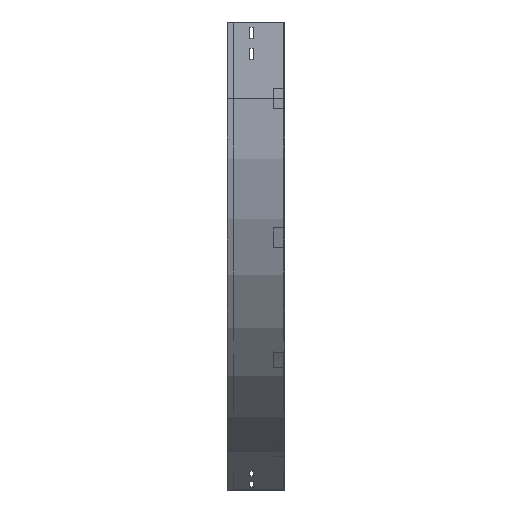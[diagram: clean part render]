
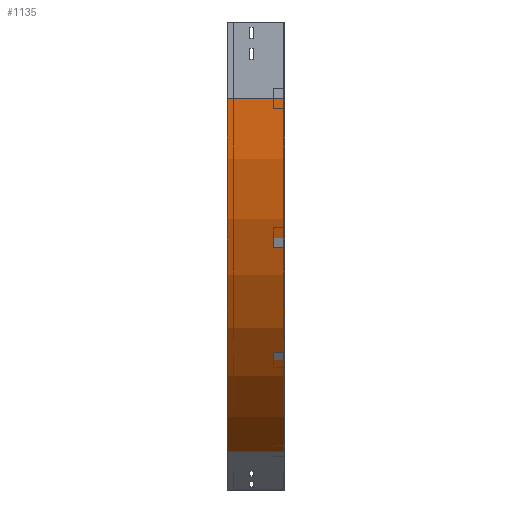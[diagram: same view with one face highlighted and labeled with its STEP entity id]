
A CAD part, left-side view. The second image highlights one B-rep face of the part: STEP entity #1135.
In plain terms, the highlighted cylindrical face has radius 800 mm (diameter 1600 mm), a partial arc.
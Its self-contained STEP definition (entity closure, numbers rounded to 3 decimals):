
#94 = CARTESIAN_POINT ( 'NONE',  ( 400., 0., -842.82 ) ) ;
#166 = AXIS2_PLACEMENT_3D ( 'NONE', #1193, #3842, #534 ) ;
#252 = DIRECTION ( 'NONE',  ( -1., 0., 0. ) ) ;
#486 = CIRCLE ( 'NONE', #2652, 800. ) ;
#501 = CARTESIAN_POINT ( 'NONE',  ( 800., 0., -150. ) ) ;
#534 = DIRECTION ( 'NONE',  ( -1., 0., 0. ) ) ;
#699 = LINE ( 'NONE', #94, #1668 ) ;
#763 = ORIENTED_EDGE ( 'NONE', *, *, #1356, .T. ) ;
#765 = FACE_OUTER_BOUND ( 'NONE', #2291, .T. ) ;
#856 = VERTEX_POINT ( 'NONE', #2967 ) ;
#1016 = ORIENTED_EDGE ( 'NONE', *, *, #1862, .T. ) ;
#1135 = ADVANCED_FACE ( 'NONE', ( #765 ), #2253, .T. ) ;
#1193 = CARTESIAN_POINT ( 'NONE',  ( 800., 0., -150. ) ) ;
#1244 = ORIENTED_EDGE ( 'NONE', *, *, #2562, .F. ) ;
#1307 = CARTESIAN_POINT ( 'NONE',  ( 400., 0., -842.82 ) ) ;
#1338 = VERTEX_POINT ( 'NONE', #1307 ) ;
#1356 = EDGE_CURVE ( 'NONE', #3556, #1338, #699, .T. ) ;
#1668 = VECTOR ( 'NONE', #1884, 1000. ) ;
#1840 = CIRCLE ( 'NONE', #166, 800. ) ;
#1862 = EDGE_CURVE ( 'NONE', #2017, #3556, #486, .T. ) ;
#1884 = DIRECTION ( 'NONE',  ( 0., -1., 0. ) ) ;
#1920 = ORIENTED_EDGE ( 'NONE', *, *, #2957, .F. ) ;
#2017 = VERTEX_POINT ( 'NONE', #2352 ) ;
#2253 = CYLINDRICAL_SURFACE ( 'NONE', #2603, 800. ) ;
#2291 = EDGE_LOOP ( 'NONE', ( #1920, #1244, #1016, #763 ) ) ;
#2311 = DIRECTION ( 'NONE',  ( 0., 0., -1. ) ) ;
#2352 = CARTESIAN_POINT ( 'NONE',  ( 0., 112.5, -150. ) ) ;
#2459 = VECTOR ( 'NONE', #3373, 1000. ) ;
#2562 = EDGE_CURVE ( 'NONE', #2017, #856, #3045, .T. ) ;
#2603 = AXIS2_PLACEMENT_3D ( 'NONE', #501, #3793, #2311 ) ;
#2652 = AXIS2_PLACEMENT_3D ( 'NONE', #3211, #3444, #252 ) ;
#2957 = EDGE_CURVE ( 'NONE', #856, #1338, #1840, .T. ) ;
#2967 = CARTESIAN_POINT ( 'NONE',  ( 0., 0., -150. ) ) ;
#3045 = LINE ( 'NONE', #3060, #2459 ) ;
#3060 = CARTESIAN_POINT ( 'NONE',  ( 0., 0., -150. ) ) ;
#3211 = CARTESIAN_POINT ( 'NONE',  ( 800., 112.5, -150. ) ) ;
#3373 = DIRECTION ( 'NONE',  ( 0., -1., 0. ) ) ;
#3444 = DIRECTION ( 'NONE',  ( 0., -1., 0. ) ) ;
#3556 = VERTEX_POINT ( 'NONE', #3739 ) ;
#3739 = CARTESIAN_POINT ( 'NONE',  ( 400., 112.5, -842.82 ) ) ;
#3793 = DIRECTION ( 'NONE',  ( 0., -1., 0. ) ) ;
#3842 = DIRECTION ( 'NONE',  ( 0., -1., 0. ) ) ;
